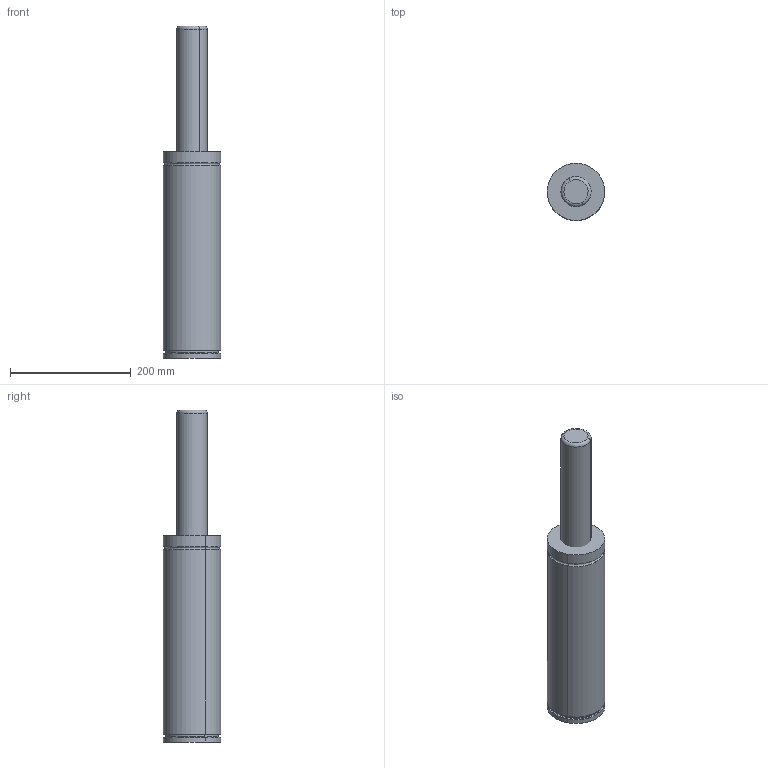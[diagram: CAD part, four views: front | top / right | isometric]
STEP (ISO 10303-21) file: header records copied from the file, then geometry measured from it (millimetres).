
FILE_DESCRIPTION(('CATIA V5 STEP Exchange'),'2;1');
FILE_NAME('W:\CATALOGO GENERAL 2018\FICHEROS CAD\004-TPS\TPS 3000\TPS 3000x225.stp','2017-11-20T12:30:30+00:00',('none'),('none'),'CATIA Version 5 Release 17 (IN-10)','CATIA V5 STEP AP203','none');
FILE_SCHEMA(('CONFIG_CONTROL_DESIGN'));
Length unit declared in the file: millimetre
Products named in the file (1): TPS 3000x225
Bounding box: 94.97 x 94.97 x 550 mm (x, y, z)
Volume: 3061009.4 mm3; surface area: 175323.2 mm2
Topology: 2 solids, 2 shells, 56 faces, 118 edges, 65 vertices
Faces by surface type: cylinder 18, cone 16, torus 16, plane 6
Entity records: 1312 total; most frequent: ORIENTED_EDGE 216, CARTESIAN_POINT 213, DIRECTION 182, AXIS2_PLACEMENT_3D 113, EDGE_CURVE 108, CIRCLE 76, EDGE_LOOP 62, VERTEX_POINT 62
